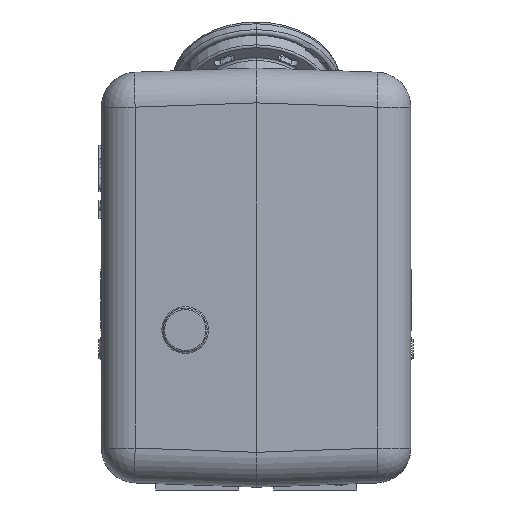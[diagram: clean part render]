
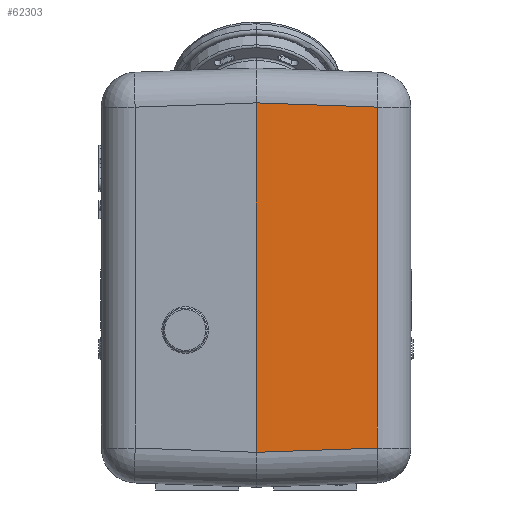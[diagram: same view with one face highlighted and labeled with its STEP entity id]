
A CAD part, front view. The second image highlights one B-rep face of the part: STEP entity #62303.
In plain terms, the highlighted planar face has unit normal (0.035, -0.999, 0).
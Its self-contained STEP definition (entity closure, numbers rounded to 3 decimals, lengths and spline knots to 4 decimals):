
#60100=DIRECTION('',(0.,0.,-1.));
#60101=VECTOR('',#60100,4.8796);
#60102=CARTESIAN_POINT('',(1.7323,-5.4115,
3.4599));
#60103=LINE('',#60102,#60101);
#60139=DIRECTION('',(0.999,0.035,0.035));
#60140=VECTOR('',#60139,1.7346);
#60141=CARTESIAN_POINT('',(0.,-5.472,
-1.4803));
#60142=LINE('',#60141,#60140);
#60187=DIRECTION('',(0.,0.,1.));
#60188=VECTOR('',#60187,5.0006);
#60189=CARTESIAN_POINT('',(0.,-5.472,
-1.4803));
#60190=LINE('',#60189,#60188);
#60342=DIRECTION('',(0.999,0.035,-0.035));
#60343=VECTOR('',#60342,1.7346);
#60344=CARTESIAN_POINT('',(-0.0001,-5.472,
3.5203));
#60345=LINE('',#60344,#60343);
#61320=CARTESIAN_POINT('',(1.7323,-5.4115,
3.4599));
#61321=CARTESIAN_POINT('',(1.7325,-5.4115,
-1.4197));
#61322=VERTEX_POINT('',#61320);
#61323=VERTEX_POINT('',#61321);
#61336=CARTESIAN_POINT('',(-0.0001,-5.472,
3.5203));
#61337=VERTEX_POINT('',#61336);
#61340=CARTESIAN_POINT('',(0.,-5.472,
-1.4803));
#61341=VERTEX_POINT('',#61340);
#62289=CARTESIAN_POINT('',(0.,-5.472,
-1.98));
#62290=DIRECTION('',(0.035,-0.999,0.));
#62291=DIRECTION('',(0.,0.,1.));
#62292=AXIS2_PLACEMENT_3D('',#62289,#62290,#62291);
#62293=PLANE('',#62292);
#62294=ORIENTED_EDGE('',*,*,#62280,.T.);
#62296=ORIENTED_EDGE('',*,*,#62295,.F.);
#62298=ORIENTED_EDGE('',*,*,#62297,.T.);
#62300=ORIENTED_EDGE('',*,*,#62299,.T.);
#62301=EDGE_LOOP('',(#62294,#62296,#62298,#62300));
#62302=FACE_OUTER_BOUND('',#62301,.F.);
#62303=ADVANCED_FACE('',(#62302),#62293,.T.);
#62280=EDGE_CURVE('',#61322,#61323,#60103,.T.);
#62295=EDGE_CURVE('',#61341,#61323,#60142,.T.);
#62297=EDGE_CURVE('',#61341,#61337,#60190,.T.);
#62299=EDGE_CURVE('',#61337,#61322,#60345,.T.);
